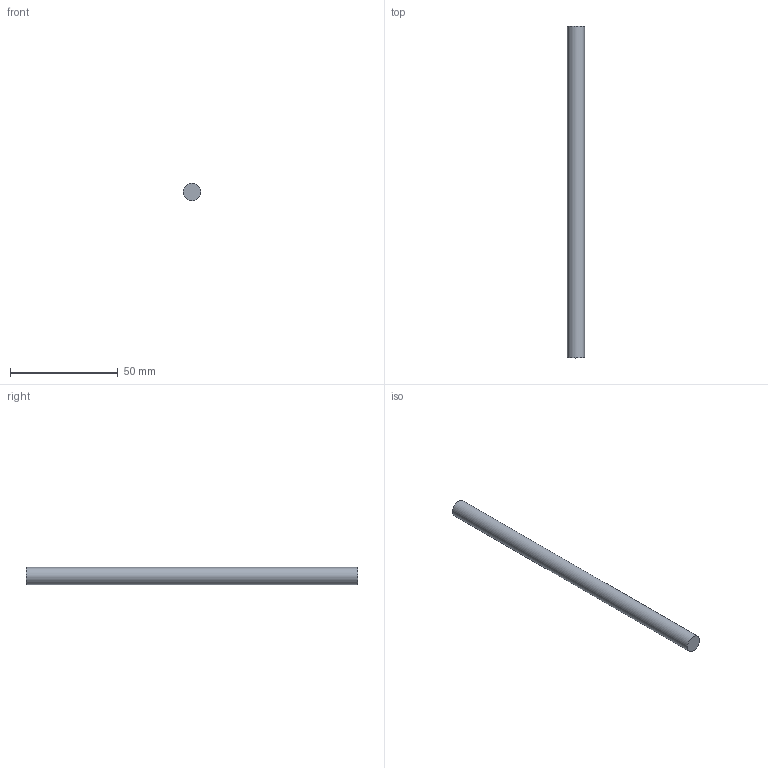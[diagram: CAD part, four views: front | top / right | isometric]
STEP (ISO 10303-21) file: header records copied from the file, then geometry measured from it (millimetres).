
FILE_DESCRIPTION(('Open CASCADE Model'),'2;1');
FILE_NAME('Open CASCADE Shape Model','2026-10-17T16:45:07',('Author'),( 'Open CASCADE'),'Open CASCADE STEP processor 8.0','build123d', 'Unknown');
FILE_SCHEMA(('AUTOMOTIVE_DESIGN { 1 0 10303 214 1 1 1 1 }'));
Length unit declared in the file: millimetre
Products named in the file (2): =>[0:1:1:2]; COMPOUND
Assembly tree (1 placements, depth 2):
  =>[0:1:1:2]
    COMPOUND
Bounding box: 8 x 154 x 8 mm (x, y, z)
Volume: 7740.9 mm3; surface area: 3971 mm2
Topology: 1 solids, 1 shells, 3 faces, 3 edges, 2 vertices
Faces by surface type: plane 2, cylinder 1
Full cylindrical faces by diameter (mm): 8 x1
Entity records: 126 total; most frequent: DIRECTION 21, CARTESIAN_POINT 16, AXIS2_PLACEMENT_3D 7, ORIENTED_EDGE 6, PCURVE 6, DEFINITIONAL_REPRESENTATION 6, LINE 5, VECTOR 5
